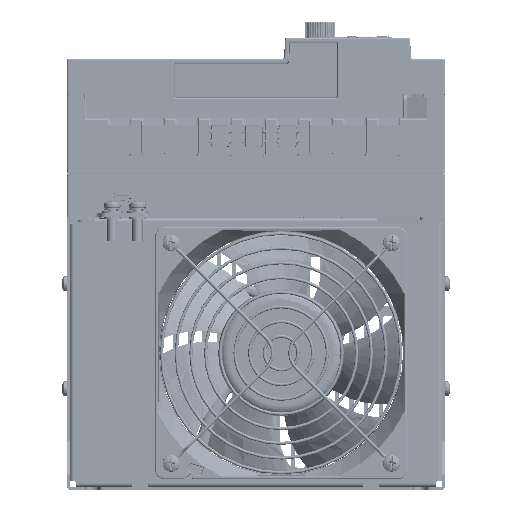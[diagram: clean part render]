
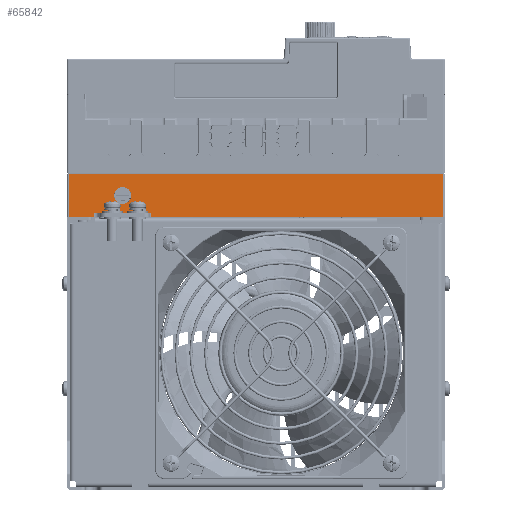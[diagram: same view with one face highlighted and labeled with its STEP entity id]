
A CAD part, front view. The second image highlights one B-rep face of the part: STEP entity #65842.
In plain terms, the highlighted planar face has unit normal (0, -1, 0).
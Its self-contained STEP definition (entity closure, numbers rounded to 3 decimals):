
#35463=DIRECTION('',(1.,0.,0.));
#35464=VECTOR('',#35463,139.095);
#35465=CARTESIAN_POINT('',(-49.895,0.,0.));
#35466=LINE('',#35465,#35464);
#35647=DIRECTION('',(1.,0.,0.));
#35648=VECTOR('',#35647,12.095);
#35649=CARTESIAN_POINT('',(-89.2,0.,0.));
#35650=LINE('',#35649,#35648);
#38192=DIRECTION('',(1.,0.,0.));
#38193=VECTOR('',#38192,178.4);
#38194=CARTESIAN_POINT('',(-89.2,0.,20.5));
#38195=LINE('',#38194,#38193);
#41884=CARTESIAN_POINT('',(-63.5,0.,10.25));
#41885=DIRECTION('',(0.,-1.,0.));
#41886=DIRECTION('',(1.,0.,0.));
#41887=AXIS2_PLACEMENT_3D('',#41884,#41885,#41886);
#41892=CARTESIAN_POINT('',(-63.5,0.,10.25));
#41893=DIRECTION('',(0.,-1.,0.));
#41894=DIRECTION('',(-1.,0.,0.));
#41895=AXIS2_PLACEMENT_3D('',#41892,#41893,#41894);
#42012=DIRECTION('',(0.,0.,-1.));
#42013=VECTOR('',#42012,20.5);
#42014=CARTESIAN_POINT('',(-89.2,0.,20.5));
#42015=LINE('',#42014,#42013);
#42019=DIRECTION('',(0.,0.,-1.));
#42020=VECTOR('',#42019,20.5);
#42021=CARTESIAN_POINT('',(89.2,0.,20.5));
#42022=LINE('',#42021,#42020);
#42026=DIRECTION('',(-0.052,0.,0.999));
#42027=VECTOR('',#42026,2.003);
#42028=CARTESIAN_POINT('',(-49.895,0.,0.));
#42029=LINE('',#42028,#42027);
#42033=DIRECTION('',(-1.,0.,0.));
#42034=VECTOR('',#42033,27.);
#42035=CARTESIAN_POINT('',(-50.,0.,2.));
#42036=LINE('',#42035,#42034);
#42040=DIRECTION('',(0.052,0.,0.999));
#42041=VECTOR('',#42040,2.003);
#42042=CARTESIAN_POINT('',(-77.105,0.,0.));
#42043=LINE('',#42042,#42041);
#58150=CARTESIAN_POINT('',(-89.2,0.,0.));
#58152=VERTEX_POINT('',#58150);
#58156=CARTESIAN_POINT('',(-89.2,0.,20.5));
#58157=VERTEX_POINT('',#58156);
#58167=CARTESIAN_POINT('',(89.2,0.,0.));
#58169=VERTEX_POINT('',#58167);
#58170=CARTESIAN_POINT('',(89.2,0.,20.5));
#58171=VERTEX_POINT('',#58170);
#58300=CARTESIAN_POINT('',(-59.474,0.,10.25));
#58301=CARTESIAN_POINT('',(-67.526,0.,10.25));
#58302=VERTEX_POINT('',#58300);
#58303=VERTEX_POINT('',#58301);
#59261=CARTESIAN_POINT('',(-50.,0.,2.));
#59262=CARTESIAN_POINT('',(-77.,0.,2.));
#59263=VERTEX_POINT('',#59261);
#59264=VERTEX_POINT('',#59262);
#59265=CARTESIAN_POINT('',(-49.895,0.,0.));
#59266=VERTEX_POINT('',#59265);
#59269=CARTESIAN_POINT('',(-77.105,0.,0.));
#59271=VERTEX_POINT('',#59269);
#65818=CARTESIAN_POINT('',(-90.,0.,0.));
#65819=DIRECTION('',(0.,-1.,0.));
#65820=DIRECTION('',(1.,0.,0.));
#65821=AXIS2_PLACEMENT_3D('',#65818,#65819,#65820);
#65822=PLANE('',#65821);
#65824=ORIENTED_EDGE('',*,*,#65823,.F.);
#65825=ORIENTED_EDGE('',*,*,#63353,.T.);
#65827=ORIENTED_EDGE('',*,*,#65826,.T.);
#65828=ORIENTED_EDGE('',*,*,#61142,.F.);
#65830=ORIENTED_EDGE('',*,*,#65829,.T.);
#65831=ORIENTED_EDGE('',*,*,#65721,.T.);
#65832=ORIENTED_EDGE('',*,*,#65761,.F.);
#65833=ORIENTED_EDGE('',*,*,#61194,.F.);
#65834=EDGE_LOOP('',(#65824,#65825,#65827,#65828,#65830,#65831,#65832,#65833));
#65835=FACE_OUTER_BOUND('',#65834,.F.);
#65837=ORIENTED_EDGE('',*,*,#65836,.T.);
#65839=ORIENTED_EDGE('',*,*,#65838,.T.);
#65840=EDGE_LOOP('',(#65837,#65839));
#65841=FACE_BOUND('',#65840,.F.);
#65842=ADVANCED_FACE('',(#65835,#65841),#65822,.T.);
#41888=CIRCLE('',#41887,4.026);
#41896=CIRCLE('',#41895,4.026);
#61142=EDGE_CURVE('',#59266,#58169,#35466,.T.);
#61194=EDGE_CURVE('',#58152,#59271,#35650,.T.);
#63353=EDGE_CURVE('',#58157,#58171,#38195,.T.);
#65721=EDGE_CURVE('',#59263,#59264,#42036,.T.);
#65761=EDGE_CURVE('',#59271,#59264,#42043,.T.);
#65823=EDGE_CURVE('',#58157,#58152,#42015,.T.);
#65826=EDGE_CURVE('',#58171,#58169,#42022,.T.);
#65829=EDGE_CURVE('',#59266,#59263,#42029,.T.);
#65836=EDGE_CURVE('',#58302,#58303,#41888,.T.);
#65838=EDGE_CURVE('',#58303,#58302,#41896,.T.);
